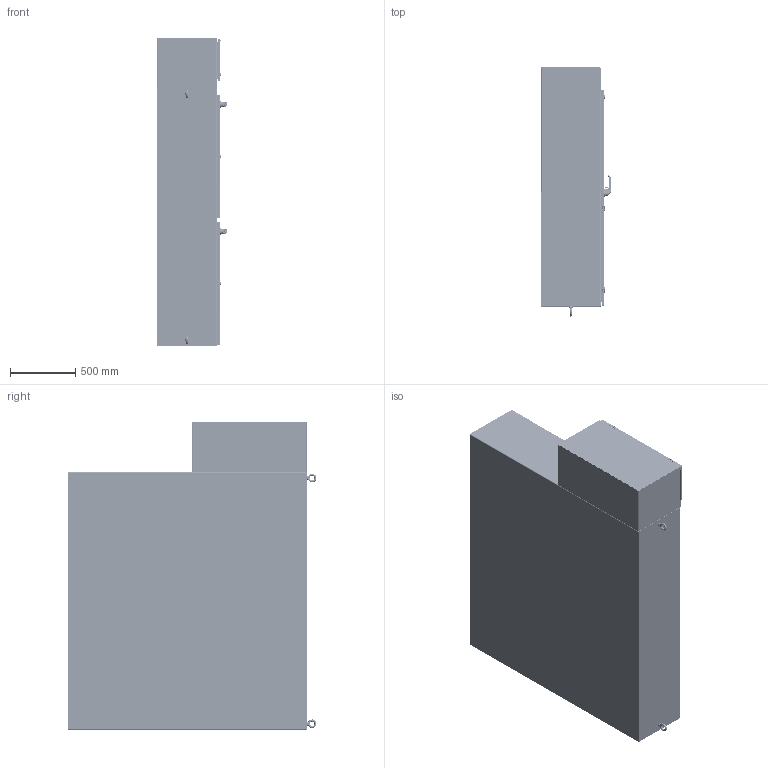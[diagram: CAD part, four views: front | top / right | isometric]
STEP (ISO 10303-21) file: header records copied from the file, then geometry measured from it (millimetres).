
FILE_DESCRIPTION((''),'2;1');
FILE_NAME('MODEL-426_ASM','2024-10-16T12:46:49',('johnh'),('SAGINAW CONTROL & ENGINEERING'),'CREO PARAMETRIC BY PTC INC, 2021284','CREO PARAMETRIC BY PTC INC, 2021284','');
FILE_SCHEMA(('AUTOMOTIVE_DESIGN { 1 0 10303 214 1 1 1 1 }'));
Length unit declared in the file: inch
Products named in the file (182): MODEL-426-TP; MODEL-426-R-SD; MODEL-426-L-SD; MODEL-426-BTM; MODEL-426-BCK; MODEL-426-SM-BRC; MODEL-426-M-DR; 100837; 111267; 100882; 100957_SCREW_MTG; 100957_PADLOCK_CATCH; 100957_SCREW_LARGE; 100957_INSERT_SHAFT; 100957_INSERT_PH; 100957_GASKET; 100957_O-RING; 100957_BASE; 100957_SPRING; 100957_HANDLE; 100957_CAM_SHAFT; 100957_HANDLE_ASM; 100957_CAM_ADAPTER; 100957_EARTH_NUT; 100957_FLANGE_NUT; 100957_CAM_NUT; 100957_ASM; 102237; 100030; 102237_ASM; MODEL-426-ROD-UPR-MD; 128146; 128145; 128144; 102482; MODEL-426-ROD-UPR-MD_ASM; 128143; 112504; MODEL-426-ROD-LWR-MD; MODEL-426-ROD-LWR-MD_ASM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
Assembly tree (383 placements, depth 5):
  MODEL-426_ASM
    MODEL-426-TP
    MODEL-426-R-SD
    MODEL-426-L-SD
    MODEL-426-BTM
    MODEL-426-BCK
    MODEL-426-SM-BRC  x2
    MODEL-426-M-DOOR-ASSY_ASM
      MODEL-426-M-DR
      100837  x7
      111267
      100882  x12
      100957_ASM
        100957_SCREW_MTG
        100957_PADLOCK_CATCH
        100957_SCREW_LARGE  x2
        100957_INSERT_SHAFT
        100957_INSERT_PH
        100957_GASKET
        100957_O-RING
        100957_BASE
        100957_SPRING
        100957_HANDLE_ASM
          100957_HANDLE
          100957_CAM_SHAFT
        100957_CAM_ADAPTER
        100957_EARTH_NUT
        100957_FLANGE_NUT
        100957_CAM_NUT
      102237_ASM
        102237
        100030  x2
      MODEL-426-ROD-UPR-MD_ASM
        MODEL-426-ROD-UPR-MD
        128146
        128145
        128144
        102482  x2
      128143  x2
      112504  x2
      MODEL-426-ROD-LWR-MD_ASM
        MODEL-426-ROD-LWR-MD
        128146
        128145
        128144
        102482  x2
      MODEL-426-PR-GSKT-M
      113885_ASM  x2
        113885_SHAFT
        113885_INSERT
        113885_CAM_30MM
        113885_NUT
        113885_SCREW
      128258_ASM  x4
        128258
      126395  x4
      102483  x4
      101383_ASM  x4
        101383
        101383-STUD
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Bounding box: 535.27 x 1903.6 x 2355.85 mm (x, y, z)
Volume: 48862130.7 mm3; surface area: 36348975.1 mm2
Topology: 429 solids, 429 shells, 35558 faces, 90217 edges, 55687 vertices
Faces by surface type: plane 12826, cylinder 9041, bspline 7986, torus 2687, cone 1675, sphere 1018, extrusion 325
Entity records: 775369 total; most frequent: CARTESIAN_POINT 316500, ORIENTED_EDGE 67788, DIRECTION 65231, PRESENTATION_STYLE_ASSIGNMENT 35137, STYLED_ITEM 34413, CURVE_STYLE 33894, EDGE_CURVE 33894, AXIS2_PLACEMENT_3D 24315
